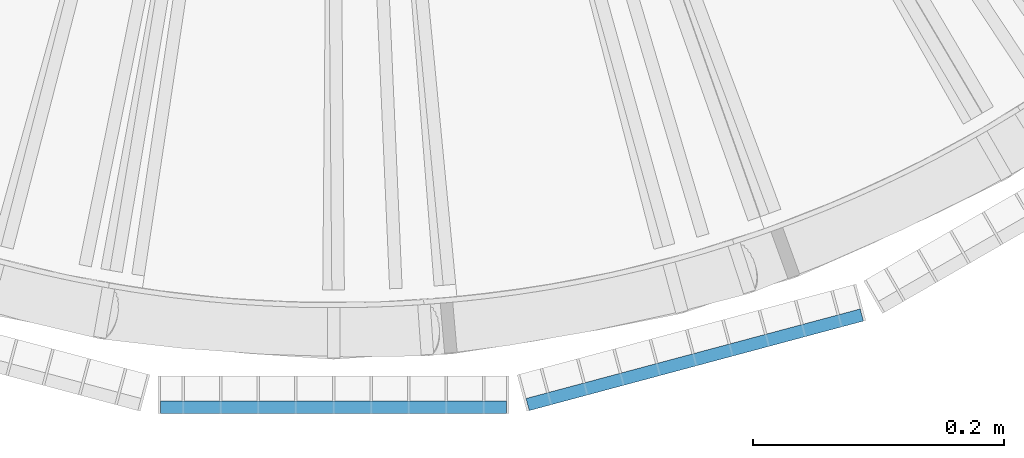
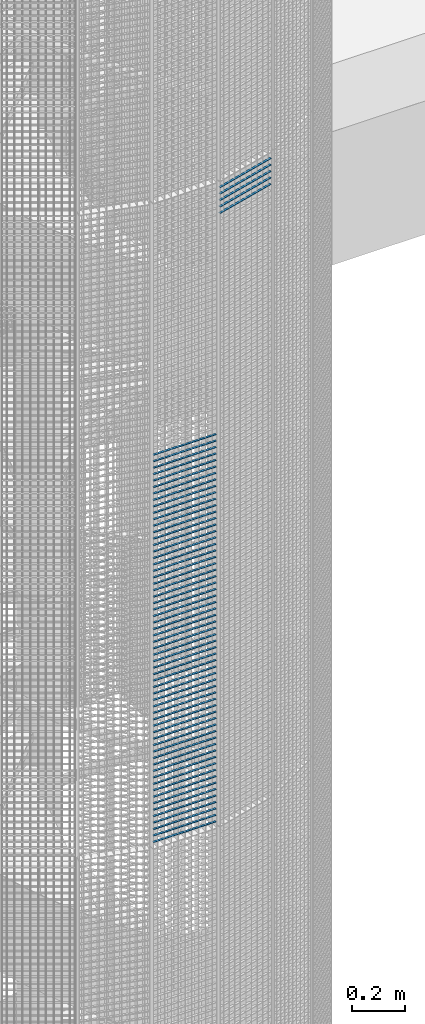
# One storey, part 395 of 1148: 66 beams, 2 elements without a shape of their own.
"""IFC2X3 building model written with IfcOpenShell, lengths in millimetres."""

from ifc_helpers import new_model, si_unit, frame, origin_with_axes, origin_2d_with_axis, place, context, subcontext, project, spatial, rectangle, extrude, material, type_object, element, aggregate, save


model = new_model("IFC2X3")

# Units and contexts
model_context = context("Model", 3, precision=1e-05, world=origin_with_axes())
body_context = subcontext(model_context, "Body", "Model", "MODEL_VIEW")
ifc_project = project(units=[si_unit("LENGTHUNIT", "METRE", prefix="MILLI"), si_unit("AREAUNIT", "SQUARE_METRE"), si_unit("VOLUMEUNIT", "CUBIC_METRE"), si_unit("MASSUNIT", "GRAM", prefix="KILO"), si_unit("TIMEUNIT", "SECOND"), si_unit("PLANEANGLEUNIT", "RADIAN"), si_unit("SOLIDANGLEUNIT", "STERADIAN"), si_unit("THERMODYNAMICTEMPERATUREUNIT", "DEGREE_CELSIUS"), si_unit("LUMINOUSINTENSITYUNIT", "LUMEN")], contexts=[model_context])

# Site, building, storey
site_placement = place(None, origin_with_axes())
site = spatial("IfcSite", under=ifc_project, at=site_placement, Name="Undefined", CompositionType="ELEMENT")
building_placement = place(site_placement, origin_with_axes())
building = spatial("IfcBuilding", under=site, at=building_placement, Name="Undefined", CompositionType="ELEMENT")
storey_placement = place(building_placement, origin_with_axes())
storey = spatial("IfcBuildingStorey", under=building, at=storey_placement, Name="Undefined", CompositionType="ELEMENT", Elevation=0.0)

# Assembly, beams
assembly_1_placement = place(storey_placement, origin_with_axes())
assembly_1 = element("IfcElementAssembly", 1, at=assembly_1_placement, inside=storey, Name="BORDURE", AssemblyPlace="NOTDEFINED", PredefinedType="NOTDEFINED")
ifc_material = material(Name="STEEL/S235JR")
beam_type = type_object("IfcBeamType", Name="PL2*10", PredefinedType="NOTDEFINED")
beam_1_placement = place(assembly_1_placement, frame((21737.9960033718, -1113.47999999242, 7830.0), z_axis=(0.0, -1.0, 0.0), x_axis=(-1.0, 0.0, 0.0)))
beam_1 = element("IfcBeam", 2, at=beam_1_placement, type_object=beam_type, material=ifc_material, Name="ENTRETOISE", context=body_context, shape_type="SweptSolid", body=[
    extrude(rectangle(XDim=2.0, YDim=10.0, at=origin_2d_with_axis()), frame((275.999999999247, 9.09494701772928e-13, 1.53210777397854e-14), z_axis=(-1.0, 0.0, 0.0), x_axis=(0.0, -1.0, 0.0)), (0.0, 0.0, 1.0), 276.0),
])
beam_2_placement = place(assembly_1_placement, frame((21737.9960033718, -1113.47999999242, 7800.0), z_axis=(0.0, -1.0, 0.0), x_axis=(-1.0, 0.0, 0.0)))
beam_2 = element("IfcBeam", 3, at=beam_2_placement, type_object=beam_type, material=ifc_material, Name="ENTRETOISE", context=body_context, shape_type="SweptSolid", body=[
    extrude(rectangle(XDim=2.0, YDim=10.0, at=origin_2d_with_axis()), frame((275.999999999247, 9.09494701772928e-13, 1.53210777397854e-14), z_axis=(-1.0, 0.0, 0.0), x_axis=(0.0, -1.0, 0.0)), (0.0, 0.0, 1.0), 276.0),
])
beam_3_placement = place(assembly_1_placement, frame((21737.9960033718, -1113.47999999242, 7770.0), z_axis=(0.0, -1.0, 0.0), x_axis=(-1.0, 0.0, 0.0)))
beam_3 = element("IfcBeam", 4, at=beam_3_placement, type_object=beam_type, material=ifc_material, Name="ENTRETOISE", context=body_context, shape_type="SweptSolid", body=[
    extrude(rectangle(XDim=2.0, YDim=10.0, at=origin_2d_with_axis()), frame((275.999999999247, 9.09494701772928e-13, 1.53210777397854e-14), z_axis=(-1.0, 0.0, 0.0), x_axis=(0.0, -1.0, 0.0)), (0.0, 0.0, 1.0), 276.0),
])
beam_4_placement = place(assembly_1_placement, frame((21737.9960033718, -1113.47999999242, 7740.0), z_axis=(0.0, -1.0, 0.0), x_axis=(-1.0, 0.0, 0.0)))
beam_4 = element("IfcBeam", 5, at=beam_4_placement, type_object=beam_type, material=ifc_material, Name="ENTRETOISE", context=body_context, shape_type="SweptSolid", body=[
    extrude(rectangle(XDim=2.0, YDim=10.0, at=origin_2d_with_axis()), frame((275.999999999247, 9.09494701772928e-13, 1.53210777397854e-14), z_axis=(-1.0, 0.0, 0.0), x_axis=(0.0, -1.0, 0.0)), (0.0, 0.0, 1.0), 276.0),
])
beam_5_placement = place(assembly_1_placement, frame((21737.9960033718, -1113.47999999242, 7710.0), z_axis=(0.0, -1.0, 0.0), x_axis=(-1.0, 0.0, 0.0)))
beam_5 = element("IfcBeam", 6, at=beam_5_placement, type_object=beam_type, material=ifc_material, Name="ENTRETOISE", context=body_context, shape_type="SweptSolid", body=[
    extrude(rectangle(XDim=2.0, YDim=10.0, at=origin_2d_with_axis()), frame((275.999999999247, 9.09494701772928e-13, 1.53210777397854e-14), z_axis=(-1.0, 0.0, 0.0), x_axis=(0.0, -1.0, 0.0)), (0.0, 0.0, 1.0), 276.0),
])
beam_6_placement = place(assembly_1_placement, frame((21737.9960033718, -1113.47999999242, 7680.0), z_axis=(0.0, -1.0, 0.0), x_axis=(-1.0, 0.0, 0.0)))
beam_6 = element("IfcBeam", 7, at=beam_6_placement, type_object=beam_type, material=ifc_material, Name="ENTRETOISE", context=body_context, shape_type="SweptSolid", body=[
    extrude(rectangle(XDim=2.0, YDim=10.0, at=origin_2d_with_axis()), frame((275.999999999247, 9.09494701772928e-13, 1.53210777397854e-14), z_axis=(-1.0, 0.0, 0.0), x_axis=(0.0, -1.0, 0.0)), (0.0, 0.0, 1.0), 276.0),
])
beam_7_placement = place(assembly_1_placement, frame((21737.9960033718, -1113.47999999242, 7650.0), z_axis=(0.0, -1.0, 0.0), x_axis=(-1.0, 0.0, 0.0)))
beam_7 = element("IfcBeam", 8, at=beam_7_placement, type_object=beam_type, material=ifc_material, Name="ENTRETOISE", context=body_context, shape_type="SweptSolid", body=[
    extrude(rectangle(XDim=2.0, YDim=10.0, at=origin_2d_with_axis()), frame((275.999999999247, 9.09494701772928e-13, 1.53210777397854e-14), z_axis=(-1.0, 0.0, 0.0), x_axis=(0.0, -1.0, 0.0)), (0.0, 0.0, 1.0), 276.0),
])
beam_8_placement = place(assembly_1_placement, frame((21737.9960033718, -1113.47999999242, 7620.0), z_axis=(0.0, -1.0, 0.0), x_axis=(-1.0, 0.0, 0.0)))
beam_8 = element("IfcBeam", 9, at=beam_8_placement, type_object=beam_type, material=ifc_material, Name="ENTRETOISE", context=body_context, shape_type="SweptSolid", body=[
    extrude(rectangle(XDim=2.0, YDim=10.0, at=origin_2d_with_axis()), frame((275.999999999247, 9.09494701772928e-13, 1.53210777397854e-14), z_axis=(-1.0, 0.0, 0.0), x_axis=(0.0, -1.0, 0.0)), (0.0, 0.0, 1.0), 276.0),
])
beam_9_placement = place(assembly_1_placement, frame((21737.9960033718, -1113.47999999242, 7590.0), z_axis=(0.0, -1.0, 0.0), x_axis=(-1.0, 0.0, 0.0)))
beam_9 = element("IfcBeam", 10, at=beam_9_placement, type_object=beam_type, material=ifc_material, Name="ENTRETOISE", context=body_context, shape_type="SweptSolid", body=[
    extrude(rectangle(XDim=2.0, YDim=10.0, at=origin_2d_with_axis()), frame((275.999999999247, 9.09494701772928e-13, 1.53210777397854e-14), z_axis=(-1.0, 0.0, 0.0), x_axis=(0.0, -1.0, 0.0)), (0.0, 0.0, 1.0), 276.0),
])
beam_10_placement = place(assembly_1_placement, frame((21737.9960033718, -1113.47999999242, 7560.0), z_axis=(0.0, -1.0, 0.0), x_axis=(-1.0, 0.0, 0.0)))
beam_10 = element("IfcBeam", 11, at=beam_10_placement, type_object=beam_type, material=ifc_material, Name="ENTRETOISE", context=body_context, shape_type="SweptSolid", body=[
    extrude(rectangle(XDim=2.0, YDim=10.0, at=origin_2d_with_axis()), frame((275.999999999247, 9.09494701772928e-13, 1.53210777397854e-14), z_axis=(-1.0, 0.0, 0.0), x_axis=(0.0, -1.0, 0.0)), (0.0, 0.0, 1.0), 276.0),
])
beam_11_placement = place(assembly_1_placement, frame((21737.9960033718, -1113.47999999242, 7530.0), z_axis=(0.0, -1.0, 0.0), x_axis=(-1.0, 0.0, 0.0)))
beam_11 = element("IfcBeam", 12, at=beam_11_placement, type_object=beam_type, material=ifc_material, Name="ENTRETOISE", context=body_context, shape_type="SweptSolid", body=[
    extrude(rectangle(XDim=2.0, YDim=10.0, at=origin_2d_with_axis()), frame((275.999999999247, 9.09494701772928e-13, 1.53210777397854e-14), z_axis=(-1.0, 0.0, 0.0), x_axis=(0.0, -1.0, 0.0)), (0.0, 0.0, 1.0), 276.0),
])
beam_12_placement = place(assembly_1_placement, frame((21737.9960033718, -1113.47999999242, 7500.0), z_axis=(0.0, -1.0, 0.0), x_axis=(-1.0, 0.0, 0.0)))
beam_12 = element("IfcBeam", 13, at=beam_12_placement, type_object=beam_type, material=ifc_material, Name="ENTRETOISE", context=body_context, shape_type="SweptSolid", body=[
    extrude(rectangle(XDim=2.0, YDim=10.0, at=origin_2d_with_axis()), frame((275.999999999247, 9.09494701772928e-13, 1.53210777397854e-14), z_axis=(-1.0, 0.0, 0.0), x_axis=(0.0, -1.0, 0.0)), (0.0, 0.0, 1.0), 276.0),
])
beam_13_placement = place(assembly_1_placement, frame((21737.9960033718, -1113.47999999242, 7470.0), z_axis=(0.0, -1.0, 0.0), x_axis=(-1.0, 0.0, 0.0)))
beam_13 = element("IfcBeam", 14, at=beam_13_placement, type_object=beam_type, material=ifc_material, Name="ENTRETOISE", context=body_context, shape_type="SweptSolid", body=[
    extrude(rectangle(XDim=2.0, YDim=10.0, at=origin_2d_with_axis()), frame((275.999999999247, 9.09494701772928e-13, 1.53210777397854e-14), z_axis=(-1.0, 0.0, 0.0), x_axis=(0.0, -1.0, 0.0)), (0.0, 0.0, 1.0), 276.0),
])
beam_14_placement = place(assembly_1_placement, frame((21737.9960033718, -1113.47999999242, 7440.0), z_axis=(0.0, -1.0, 0.0), x_axis=(-1.0, 0.0, 0.0)))
beam_14 = element("IfcBeam", 15, at=beam_14_placement, type_object=beam_type, material=ifc_material, Name="ENTRETOISE", context=body_context, shape_type="SweptSolid", body=[
    extrude(rectangle(XDim=2.0, YDim=10.0, at=origin_2d_with_axis()), frame((275.999999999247, 9.09494701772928e-13, 1.53210777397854e-14), z_axis=(-1.0, 0.0, 0.0), x_axis=(0.0, -1.0, 0.0)), (0.0, 0.0, 1.0), 276.0),
])
beam_15_placement = place(assembly_1_placement, frame((21737.9960033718, -1113.47999999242, 7410.0), z_axis=(0.0, -1.0, 0.0), x_axis=(-1.0, 0.0, 0.0)))
beam_15 = element("IfcBeam", 16, at=beam_15_placement, type_object=beam_type, material=ifc_material, Name="ENTRETOISE", context=body_context, shape_type="SweptSolid", body=[
    extrude(rectangle(XDim=2.0, YDim=10.0, at=origin_2d_with_axis()), frame((275.999999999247, 9.09494701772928e-13, 1.53210777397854e-14), z_axis=(-1.0, 0.0, 0.0), x_axis=(0.0, -1.0, 0.0)), (0.0, 0.0, 1.0), 276.0),
])
beam_16_placement = place(assembly_1_placement, frame((21737.9960033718, -1113.47999999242, 7380.0), z_axis=(0.0, -1.0, 0.0), x_axis=(-1.0, 0.0, 0.0)))
beam_16 = element("IfcBeam", 17, at=beam_16_placement, type_object=beam_type, material=ifc_material, Name="ENTRETOISE", context=body_context, shape_type="SweptSolid", body=[
    extrude(rectangle(XDim=2.0, YDim=10.0, at=origin_2d_with_axis()), frame((275.999999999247, 9.09494701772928e-13, 1.53210777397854e-14), z_axis=(-1.0, 0.0, 0.0), x_axis=(0.0, -1.0, 0.0)), (0.0, 0.0, 1.0), 276.0),
])
beam_17_placement = place(assembly_1_placement, frame((21737.9960033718, -1113.47999999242, 7350.0), z_axis=(0.0, -1.0, 0.0), x_axis=(-1.0, 0.0, 0.0)))
beam_17 = element("IfcBeam", 18, at=beam_17_placement, type_object=beam_type, material=ifc_material, Name="ENTRETOISE", context=body_context, shape_type="SweptSolid", body=[
    extrude(rectangle(XDim=2.0, YDim=10.0, at=origin_2d_with_axis()), frame((275.999999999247, 9.09494701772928e-13, 1.53210777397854e-14), z_axis=(-1.0, 0.0, 0.0), x_axis=(0.0, -1.0, 0.0)), (0.0, 0.0, 1.0), 276.0),
])
beam_18_placement = place(assembly_1_placement, frame((21737.9960033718, -1113.47999999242, 7320.0), z_axis=(0.0, -1.0, 0.0), x_axis=(-1.0, 0.0, 0.0)))
beam_18 = element("IfcBeam", 19, at=beam_18_placement, type_object=beam_type, material=ifc_material, Name="ENTRETOISE", context=body_context, shape_type="SweptSolid", body=[
    extrude(rectangle(XDim=2.0, YDim=10.0, at=origin_2d_with_axis()), frame((275.999999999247, 9.09494701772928e-13, 1.53210777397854e-14), z_axis=(-1.0, 0.0, 0.0), x_axis=(0.0, -1.0, 0.0)), (0.0, 0.0, 1.0), 276.0),
])
beam_19_placement = place(assembly_1_placement, frame((21737.9960033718, -1113.47999999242, 7290.0), z_axis=(0.0, -1.0, 0.0), x_axis=(-1.0, 0.0, 0.0)))
beam_19 = element("IfcBeam", 20, at=beam_19_placement, type_object=beam_type, material=ifc_material, Name="ENTRETOISE", context=body_context, shape_type="SweptSolid", body=[
    extrude(rectangle(XDim=2.0, YDim=10.0, at=origin_2d_with_axis()), frame((275.999999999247, 9.09494701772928e-13, 1.53210777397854e-14), z_axis=(-1.0, 0.0, 0.0), x_axis=(0.0, -1.0, 0.0)), (0.0, 0.0, 1.0), 276.0),
])
beam_20_placement = place(assembly_1_placement, frame((21737.9960033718, -1113.47999999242, 7260.0), z_axis=(0.0, -1.0, 0.0), x_axis=(-1.0, 0.0, 0.0)))
beam_20 = element("IfcBeam", 21, at=beam_20_placement, type_object=beam_type, material=ifc_material, Name="ENTRETOISE", context=body_context, shape_type="SweptSolid", body=[
    extrude(rectangle(XDim=2.0, YDim=10.0, at=origin_2d_with_axis()), frame((275.999999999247, 9.09494701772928e-13, 1.53210777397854e-14), z_axis=(-1.0, 0.0, 0.0), x_axis=(0.0, -1.0, 0.0)), (0.0, 0.0, 1.0), 276.0),
])
beam_21_placement = place(assembly_1_placement, frame((21737.9960033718, -1113.47999999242, 7230.0), z_axis=(0.0, -1.0, 0.0), x_axis=(-1.0, 0.0, 0.0)))
beam_21 = element("IfcBeam", 22, at=beam_21_placement, type_object=beam_type, material=ifc_material, Name="ENTRETOISE", context=body_context, shape_type="SweptSolid", body=[
    extrude(rectangle(XDim=2.0, YDim=10.0, at=origin_2d_with_axis()), frame((275.999999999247, 9.09494701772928e-13, 1.53210777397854e-14), z_axis=(-1.0, 0.0, 0.0), x_axis=(0.0, -1.0, 0.0)), (0.0, 0.0, 1.0), 276.0),
])
beam_22_placement = place(assembly_1_placement, frame((21737.9960033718, -1113.47999999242, 7200.0), z_axis=(0.0, -1.0, 0.0), x_axis=(-1.0, 0.0, 0.0)))
beam_22 = element("IfcBeam", 23, at=beam_22_placement, type_object=beam_type, material=ifc_material, Name="ENTRETOISE", context=body_context, shape_type="SweptSolid", body=[
    extrude(rectangle(XDim=2.0, YDim=10.0, at=origin_2d_with_axis()), frame((275.999999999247, 9.09494701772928e-13, 1.53210777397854e-14), z_axis=(-1.0, 0.0, 0.0), x_axis=(0.0, -1.0, 0.0)), (0.0, 0.0, 1.0), 276.0),
])
beam_23_placement = place(assembly_1_placement, frame((21737.9960033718, -1113.47999999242, 7170.0), z_axis=(0.0, -1.0, 0.0), x_axis=(-1.0, 0.0, 0.0)))
beam_23 = element("IfcBeam", 24, at=beam_23_placement, type_object=beam_type, material=ifc_material, Name="ENTRETOISE", context=body_context, shape_type="SweptSolid", body=[
    extrude(rectangle(XDim=2.0, YDim=10.0, at=origin_2d_with_axis()), frame((275.999999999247, 9.09494701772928e-13, 1.53210777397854e-14), z_axis=(-1.0, 0.0, 0.0), x_axis=(0.0, -1.0, 0.0)), (0.0, 0.0, 1.0), 276.0),
])
beam_24_placement = place(assembly_1_placement, frame((21737.9960033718, -1113.47999999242, 7140.0), z_axis=(0.0, -1.0, 0.0), x_axis=(-1.0, 0.0, 0.0)))
beam_24 = element("IfcBeam", 25, at=beam_24_placement, type_object=beam_type, material=ifc_material, Name="ENTRETOISE", context=body_context, shape_type="SweptSolid", body=[
    extrude(rectangle(XDim=2.0, YDim=10.0, at=origin_2d_with_axis()), frame((275.999999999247, 9.09494701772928e-13, 1.53210777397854e-14), z_axis=(-1.0, 0.0, 0.0), x_axis=(0.0, -1.0, 0.0)), (0.0, 0.0, 1.0), 276.0),
])
beam_25_placement = place(assembly_1_placement, frame((21737.9960033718, -1113.47999999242, 6720.0), z_axis=(0.0, -1.0, 0.0), x_axis=(-1.0, 0.0, 0.0)))
beam_25 = element("IfcBeam", 26, at=beam_25_placement, type_object=beam_type, material=ifc_material, Name="ENTRETOISE", context=body_context, shape_type="SweptSolid", body=[
    extrude(rectangle(XDim=2.0, YDim=10.0, at=origin_2d_with_axis()), frame((275.999999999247, 9.09494701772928e-13, 1.53210777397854e-14), z_axis=(-1.0, 0.0, 0.0), x_axis=(0.0, -1.0, 0.0)), (0.0, 0.0, 1.0), 276.0),
])
beam_26_placement = place(assembly_1_placement, frame((21737.9960033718, -1113.47999999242, 6690.0), z_axis=(0.0, -1.0, 0.0), x_axis=(-1.0, 0.0, 0.0)))
beam_26 = element("IfcBeam", 27, at=beam_26_placement, type_object=beam_type, material=ifc_material, Name="ENTRETOISE", context=body_context, shape_type="SweptSolid", body=[
    extrude(rectangle(XDim=2.0, YDim=10.0, at=origin_2d_with_axis()), frame((275.999999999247, 9.09494701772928e-13, 1.53210777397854e-14), z_axis=(-1.0, 0.0, 0.0), x_axis=(0.0, -1.0, 0.0)), (0.0, 0.0, 1.0), 276.0),
])
beam_27_placement = place(assembly_1_placement, frame((21737.9960033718, -1113.47999999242, 6750.0), z_axis=(0.0, -1.0, 0.0), x_axis=(-1.0, 0.0, 0.0)))
beam_27 = element("IfcBeam", 28, at=beam_27_placement, type_object=beam_type, material=ifc_material, Name="ENTRETOISE", context=body_context, shape_type="SweptSolid", body=[
    extrude(rectangle(XDim=2.0, YDim=10.0, at=origin_2d_with_axis()), frame((275.999999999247, 9.09494701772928e-13, 1.53210777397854e-14), z_axis=(-1.0, 0.0, 0.0), x_axis=(0.0, -1.0, 0.0)), (0.0, 0.0, 1.0), 276.0),
])
beam_28_placement = place(assembly_1_placement, frame((21737.9960033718, -1113.47999999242, 6660.0), z_axis=(0.0, -1.0, 0.0), x_axis=(-1.0, 0.0, 0.0)))
beam_28 = element("IfcBeam", 29, at=beam_28_placement, type_object=beam_type, material=ifc_material, Name="ENTRETOISE", context=body_context, shape_type="SweptSolid", body=[
    extrude(rectangle(XDim=2.0, YDim=10.0, at=origin_2d_with_axis()), frame((275.999999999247, 9.09494701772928e-13, 1.53210777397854e-14), z_axis=(-1.0, 0.0, 0.0), x_axis=(0.0, -1.0, 0.0)), (0.0, 0.0, 1.0), 276.0),
])
beam_29_placement = place(assembly_1_placement, frame((21737.9960033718, -1113.47999999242, 6630.0), z_axis=(0.0, -1.0, 0.0), x_axis=(-1.0, 0.0, 0.0)))
beam_29 = element("IfcBeam", 30, at=beam_29_placement, type_object=beam_type, material=ifc_material, Name="ENTRETOISE", context=body_context, shape_type="SweptSolid", body=[
    extrude(rectangle(XDim=2.0, YDim=10.0, at=origin_2d_with_axis()), frame((275.999999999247, 9.09494701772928e-13, 1.53210777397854e-14), z_axis=(-1.0, 0.0, 0.0), x_axis=(0.0, -1.0, 0.0)), (0.0, 0.0, 1.0), 276.0),
])
beam_30_placement = place(assembly_1_placement, frame((21737.9960033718, -1113.47999999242, 6780.0), z_axis=(0.0, -1.0, 0.0), x_axis=(-1.0, 0.0, 0.0)))
beam_30 = element("IfcBeam", 31, at=beam_30_placement, type_object=beam_type, material=ifc_material, Name="ENTRETOISE", context=body_context, shape_type="SweptSolid", body=[
    extrude(rectangle(XDim=2.0, YDim=10.0, at=origin_2d_with_axis()), frame((275.999999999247, 9.09494701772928e-13, 1.53210777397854e-14), z_axis=(-1.0, 0.0, 0.0), x_axis=(0.0, -1.0, 0.0)), (0.0, 0.0, 1.0), 276.0),
])
beam_31_placement = place(assembly_1_placement, frame((21737.9960033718, -1113.47999999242, 6600.0), z_axis=(0.0, -1.0, 0.0), x_axis=(-1.0, 0.0, 0.0)))
beam_31 = element("IfcBeam", 32, at=beam_31_placement, type_object=beam_type, material=ifc_material, Name="ENTRETOISE", context=body_context, shape_type="SweptSolid", body=[
    extrude(rectangle(XDim=2.0, YDim=10.0, at=origin_2d_with_axis()), frame((275.999999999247, 9.09494701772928e-13, 1.53210777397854e-14), z_axis=(-1.0, 0.0, 0.0), x_axis=(0.0, -1.0, 0.0)), (0.0, 0.0, 1.0), 276.0),
])
beam_32_placement = place(assembly_1_placement, frame((21737.9960033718, -1113.47999999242, 6810.0), z_axis=(0.0, -1.0, 0.0), x_axis=(-1.0, 0.0, 0.0)))
beam_32 = element("IfcBeam", 33, at=beam_32_placement, type_object=beam_type, material=ifc_material, Name="ENTRETOISE", context=body_context, shape_type="SweptSolid", body=[
    extrude(rectangle(XDim=2.0, YDim=10.0, at=origin_2d_with_axis()), frame((275.999999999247, 9.09494701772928e-13, 1.53210777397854e-14), z_axis=(-1.0, 0.0, 0.0), x_axis=(0.0, -1.0, 0.0)), (0.0, 0.0, 1.0), 276.0),
])
beam_33_placement = place(assembly_1_placement, frame((21737.9960033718, -1113.47999999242, 6570.0), z_axis=(0.0, -1.0, 0.0), x_axis=(-1.0, 0.0, 0.0)))
beam_33 = element("IfcBeam", 34, at=beam_33_placement, type_object=beam_type, material=ifc_material, Name="ENTRETOISE", context=body_context, shape_type="SweptSolid", body=[
    extrude(rectangle(XDim=2.0, YDim=10.0, at=origin_2d_with_axis()), frame((275.999999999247, 9.09494701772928e-13, 1.53210777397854e-14), z_axis=(-1.0, 0.0, 0.0), x_axis=(0.0, -1.0, 0.0)), (0.0, 0.0, 1.0), 276.0),
])
beam_34_placement = place(assembly_1_placement, frame((21737.9960033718, -1113.47999999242, 6540.0), z_axis=(0.0, -1.0, 0.0), x_axis=(-1.0, 0.0, 0.0)))
beam_34 = element("IfcBeam", 35, at=beam_34_placement, type_object=beam_type, material=ifc_material, Name="ENTRETOISE", context=body_context, shape_type="SweptSolid", body=[
    extrude(rectangle(XDim=2.0, YDim=10.0, at=origin_2d_with_axis()), frame((275.999999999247, 9.09494701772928e-13, 1.53210777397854e-14), z_axis=(-1.0, 0.0, 0.0), x_axis=(0.0, -1.0, 0.0)), (0.0, 0.0, 1.0), 276.0),
])
beam_35_placement = place(assembly_1_placement, frame((21737.9960033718, -1113.47999999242, 6840.0), z_axis=(0.0, -1.0, 0.0), x_axis=(-1.0, 0.0, 0.0)))
beam_35 = element("IfcBeam", 36, at=beam_35_placement, type_object=beam_type, material=ifc_material, Name="ENTRETOISE", context=body_context, shape_type="SweptSolid", body=[
    extrude(rectangle(XDim=2.0, YDim=10.0, at=origin_2d_with_axis()), frame((275.999999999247, 9.09494701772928e-13, 1.53210777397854e-14), z_axis=(-1.0, 0.0, 0.0), x_axis=(0.0, -1.0, 0.0)), (0.0, 0.0, 1.0), 276.0),
])
beam_36_placement = place(assembly_1_placement, frame((21737.9960033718, -1113.47999999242, 6510.0), z_axis=(0.0, -1.0, 0.0), x_axis=(-1.0, 0.0, 0.0)))
beam_36 = element("IfcBeam", 37, at=beam_36_placement, type_object=beam_type, material=ifc_material, Name="ENTRETOISE", context=body_context, shape_type="SweptSolid", body=[
    extrude(rectangle(XDim=2.0, YDim=10.0, at=origin_2d_with_axis()), frame((275.999999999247, 9.09494701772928e-13, 1.53210777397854e-14), z_axis=(-1.0, 0.0, 0.0), x_axis=(0.0, -1.0, 0.0)), (0.0, 0.0, 1.0), 276.0),
])
beam_37_placement = place(assembly_1_placement, frame((21737.9960033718, -1113.47999999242, 6480.0), z_axis=(0.0, -1.0, 0.0), x_axis=(-1.0, 0.0, 0.0)))
beam_37 = element("IfcBeam", 38, at=beam_37_placement, type_object=beam_type, material=ifc_material, Name="ENTRETOISE", context=body_context, shape_type="SweptSolid", body=[
    extrude(rectangle(XDim=2.0, YDim=10.0, at=origin_2d_with_axis()), frame((275.999999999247, 9.09494701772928e-13, 1.53210777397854e-14), z_axis=(-1.0, 0.0, 0.0), x_axis=(0.0, -1.0, 0.0)), (0.0, 0.0, 1.0), 276.0),
])
beam_38_placement = place(assembly_1_placement, frame((21737.9960033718, -1113.47999999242, 6870.0), z_axis=(0.0, -1.0, 0.0), x_axis=(-1.0, 0.0, 0.0)))
beam_38 = element("IfcBeam", 39, at=beam_38_placement, type_object=beam_type, material=ifc_material, Name="ENTRETOISE", context=body_context, shape_type="SweptSolid", body=[
    extrude(rectangle(XDim=2.0, YDim=10.0, at=origin_2d_with_axis()), frame((275.999999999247, 9.09494701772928e-13, 1.53210777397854e-14), z_axis=(-1.0, 0.0, 0.0), x_axis=(0.0, -1.0, 0.0)), (0.0, 0.0, 1.0), 276.0),
])
beam_39_placement = place(assembly_1_placement, frame((21737.9960033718, -1113.47999999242, 6450.0), z_axis=(0.0, -1.0, 0.0), x_axis=(-1.0, 0.0, 0.0)))
beam_39 = element("IfcBeam", 40, at=beam_39_placement, type_object=beam_type, material=ifc_material, Name="ENTRETOISE", context=body_context, shape_type="SweptSolid", body=[
    extrude(rectangle(XDim=2.0, YDim=10.0, at=origin_2d_with_axis()), frame((275.999999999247, 9.09494701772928e-13, 1.53210777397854e-14), z_axis=(-1.0, 0.0, 0.0), x_axis=(0.0, -1.0, 0.0)), (0.0, 0.0, 1.0), 276.0),
])
beam_40_placement = place(assembly_1_placement, frame((21737.9960033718, -1113.47999999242, 6420.0), z_axis=(0.0, -1.0, 0.0), x_axis=(-1.0, 0.0, 0.0)))
beam_40 = element("IfcBeam", 41, at=beam_40_placement, type_object=beam_type, material=ifc_material, Name="ENTRETOISE", context=body_context, shape_type="SweptSolid", body=[
    extrude(rectangle(XDim=2.0, YDim=10.0, at=origin_2d_with_axis()), frame((275.999999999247, 9.09494701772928e-13, 1.53210777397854e-14), z_axis=(-1.0, 0.0, 0.0), x_axis=(0.0, -1.0, 0.0)), (0.0, 0.0, 1.0), 276.0),
])
beam_41_placement = place(assembly_1_placement, frame((21737.9960033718, -1113.47999999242, 6900.0), z_axis=(0.0, -1.0, 0.0), x_axis=(-1.0, 0.0, 0.0)))
beam_41 = element("IfcBeam", 42, at=beam_41_placement, type_object=beam_type, material=ifc_material, Name="ENTRETOISE", context=body_context, shape_type="SweptSolid", body=[
    extrude(rectangle(XDim=2.0, YDim=10.0, at=origin_2d_with_axis()), frame((275.999999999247, 9.09494701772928e-13, 1.53210777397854e-14), z_axis=(-1.0, 0.0, 0.0), x_axis=(0.0, -1.0, 0.0)), (0.0, 0.0, 1.0), 276.0),
])
beam_42_placement = place(assembly_1_placement, frame((21737.9960033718, -1113.47999999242, 6390.0), z_axis=(0.0, -1.0, 0.0), x_axis=(-1.0, 0.0, 0.0)))
beam_42 = element("IfcBeam", 43, at=beam_42_placement, type_object=beam_type, material=ifc_material, Name="ENTRETOISE", context=body_context, shape_type="SweptSolid", body=[
    extrude(rectangle(XDim=2.0, YDim=10.0, at=origin_2d_with_axis()), frame((275.999999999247, 9.09494701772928e-13, 1.53210777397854e-14), z_axis=(-1.0, 0.0, 0.0), x_axis=(0.0, -1.0, 0.0)), (0.0, 0.0, 1.0), 276.0),
])
beam_43_placement = place(assembly_1_placement, frame((21737.9960033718, -1113.47999999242, 6930.0), z_axis=(0.0, -1.0, 0.0), x_axis=(-1.0, 0.0, 0.0)))
beam_43 = element("IfcBeam", 44, at=beam_43_placement, type_object=beam_type, material=ifc_material, Name="ENTRETOISE", context=body_context, shape_type="SweptSolid", body=[
    extrude(rectangle(XDim=2.0, YDim=10.0, at=origin_2d_with_axis()), frame((275.999999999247, 9.09494701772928e-13, 1.53210777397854e-14), z_axis=(-1.0, 0.0, 0.0), x_axis=(0.0, -1.0, 0.0)), (0.0, 0.0, 1.0), 276.0),
])
beam_44_placement = place(assembly_1_placement, frame((21737.9960033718, -1113.47999999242, 6360.0), z_axis=(0.0, -1.0, 0.0), x_axis=(-1.0, 0.0, 0.0)))
beam_44 = element("IfcBeam", 45, at=beam_44_placement, type_object=beam_type, material=ifc_material, Name="ENTRETOISE", context=body_context, shape_type="SweptSolid", body=[
    extrude(rectangle(XDim=2.0, YDim=10.0, at=origin_2d_with_axis()), frame((275.999999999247, 9.09494701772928e-13, 1.53210777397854e-14), z_axis=(-1.0, 0.0, 0.0), x_axis=(0.0, -1.0, 0.0)), (0.0, 0.0, 1.0), 276.0),
])
beam_45_placement = place(assembly_1_placement, frame((21737.9960033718, -1113.47999999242, 6330.0), z_axis=(0.0, -1.0, 0.0), x_axis=(-1.0, 0.0, 0.0)))
beam_45 = element("IfcBeam", 46, at=beam_45_placement, type_object=beam_type, material=ifc_material, Name="ENTRETOISE", context=body_context, shape_type="SweptSolid", body=[
    extrude(rectangle(XDim=2.0, YDim=10.0, at=origin_2d_with_axis()), frame((275.999999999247, 9.09494701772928e-13, 1.53210777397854e-14), z_axis=(-1.0, 0.0, 0.0), x_axis=(0.0, -1.0, 0.0)), (0.0, 0.0, 1.0), 276.0),
])
beam_46_placement = place(assembly_1_placement, frame((21737.9960033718, -1113.47999999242, 6960.0), z_axis=(0.0, -1.0, 0.0), x_axis=(-1.0, 0.0, 0.0)))
beam_46 = element("IfcBeam", 47, at=beam_46_placement, type_object=beam_type, material=ifc_material, Name="ENTRETOISE", context=body_context, shape_type="SweptSolid", body=[
    extrude(rectangle(XDim=2.0, YDim=10.0, at=origin_2d_with_axis()), frame((275.999999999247, 9.09494701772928e-13, 1.53210777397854e-14), z_axis=(-1.0, 0.0, 0.0), x_axis=(0.0, -1.0, 0.0)), (0.0, 0.0, 1.0), 276.0),
])
beam_47_placement = place(assembly_1_placement, frame((21737.9960033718, -1113.47999999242, 6300.0), z_axis=(0.0, -1.0, 0.0), x_axis=(-1.0, 0.0, 0.0)))
beam_47 = element("IfcBeam", 48, at=beam_47_placement, type_object=beam_type, material=ifc_material, Name="ENTRETOISE", context=body_context, shape_type="SweptSolid", body=[
    extrude(rectangle(XDim=2.0, YDim=10.0, at=origin_2d_with_axis()), frame((275.999999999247, 9.09494701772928e-13, 1.53210777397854e-14), z_axis=(-1.0, 0.0, 0.0), x_axis=(0.0, -1.0, 0.0)), (0.0, 0.0, 1.0), 276.0),
])
beam_48_placement = place(assembly_1_placement, frame((21737.9960033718, -1113.47999999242, 6270.0), z_axis=(0.0, -1.0, 0.0), x_axis=(-1.0, 0.0, 0.0)))
beam_48 = element("IfcBeam", 49, at=beam_48_placement, type_object=beam_type, material=ifc_material, Name="ENTRETOISE", context=body_context, shape_type="SweptSolid", body=[
    extrude(rectangle(XDim=2.0, YDim=10.0, at=origin_2d_with_axis()), frame((275.999999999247, 9.09494701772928e-13, 1.53210777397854e-14), z_axis=(-1.0, 0.0, 0.0), x_axis=(0.0, -1.0, 0.0)), (0.0, 0.0, 1.0), 276.0),
])
beam_49_placement = place(assembly_1_placement, frame((21737.9960033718, -1113.47999999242, 6990.0), z_axis=(0.0, -1.0, 0.0), x_axis=(-1.0, 0.0, 0.0)))
beam_49 = element("IfcBeam", 50, at=beam_49_placement, type_object=beam_type, material=ifc_material, Name="ENTRETOISE", context=body_context, shape_type="SweptSolid", body=[
    extrude(rectangle(XDim=2.0, YDim=10.0, at=origin_2d_with_axis()), frame((275.999999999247, 9.09494701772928e-13, 1.53210777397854e-14), z_axis=(-1.0, 0.0, 0.0), x_axis=(0.0, -1.0, 0.0)), (0.0, 0.0, 1.0), 276.0),
])
beam_50_placement = place(assembly_1_placement, frame((21737.9960033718, -1113.47999999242, 6240.0), z_axis=(0.0, -1.0, 0.0), x_axis=(-1.0, 0.0, 0.0)))
beam_50 = element("IfcBeam", 51, at=beam_50_placement, type_object=beam_type, material=ifc_material, Name="ENTRETOISE", context=body_context, shape_type="SweptSolid", body=[
    extrude(rectangle(XDim=2.0, YDim=10.0, at=origin_2d_with_axis()), frame((275.999999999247, 9.09494701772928e-13, 1.53210777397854e-14), z_axis=(-1.0, 0.0, 0.0), x_axis=(0.0, -1.0, 0.0)), (0.0, 0.0, 1.0), 276.0),
])
beam_51_placement = place(assembly_1_placement, frame((21737.9960033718, -1113.47999999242, 7020.0), z_axis=(0.0, -1.0, 0.0), x_axis=(-1.0, 0.0, 0.0)))
beam_51 = element("IfcBeam", 52, at=beam_51_placement, type_object=beam_type, material=ifc_material, Name="ENTRETOISE", context=body_context, shape_type="SweptSolid", body=[
    extrude(rectangle(XDim=2.0, YDim=10.0, at=origin_2d_with_axis()), frame((275.999999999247, 9.09494701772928e-13, 1.53210777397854e-14), z_axis=(-1.0, 0.0, 0.0), x_axis=(0.0, -1.0, 0.0)), (0.0, 0.0, 1.0), 276.0),
])
beam_52_placement = place(assembly_1_placement, frame((21737.9960033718, -1113.47999999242, 6210.0), z_axis=(0.0, -1.0, 0.0), x_axis=(-1.0, 0.0, 0.0)))
beam_52 = element("IfcBeam", 53, at=beam_52_placement, type_object=beam_type, material=ifc_material, Name="ENTRETOISE", context=body_context, shape_type="SweptSolid", body=[
    extrude(rectangle(XDim=2.0, YDim=10.0, at=origin_2d_with_axis()), frame((275.999999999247, 9.09494701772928e-13, 1.53210777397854e-14), z_axis=(-1.0, 0.0, 0.0), x_axis=(0.0, -1.0, 0.0)), (0.0, 0.0, 1.0), 276.0),
])
beam_53_placement = place(assembly_1_placement, frame((21737.9960033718, -1113.47999999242, 6180.0), z_axis=(0.0, -1.0, 0.0), x_axis=(-1.0, 0.0, 0.0)))
beam_53 = element("IfcBeam", 54, at=beam_53_placement, type_object=beam_type, material=ifc_material, Name="ENTRETOISE", context=body_context, shape_type="SweptSolid", body=[
    extrude(rectangle(XDim=2.0, YDim=10.0, at=origin_2d_with_axis()), frame((275.999999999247, 9.09494701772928e-13, 1.53210777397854e-14), z_axis=(-1.0, 0.0, 0.0), x_axis=(0.0, -1.0, 0.0)), (0.0, 0.0, 1.0), 276.0),
])
beam_54_placement = place(assembly_1_placement, frame((21737.9960033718, -1113.47999999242, 7050.0), z_axis=(0.0, -1.0, 0.0), x_axis=(-1.0, 0.0, 0.0)))
beam_54 = element("IfcBeam", 55, at=beam_54_placement, type_object=beam_type, material=ifc_material, Name="ENTRETOISE", context=body_context, shape_type="SweptSolid", body=[
    extrude(rectangle(XDim=2.0, YDim=10.0, at=origin_2d_with_axis()), frame((275.999999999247, 9.09494701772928e-13, 1.53210777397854e-14), z_axis=(-1.0, 0.0, 0.0), x_axis=(0.0, -1.0, 0.0)), (0.0, 0.0, 1.0), 276.0),
])
beam_55_placement = place(assembly_1_placement, frame((21737.9960033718, -1113.47999999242, 6150.0), z_axis=(0.0, -1.0, 0.0), x_axis=(-1.0, 0.0, 0.0)))
beam_55 = element("IfcBeam", 56, at=beam_55_placement, type_object=beam_type, material=ifc_material, Name="ENTRETOISE", context=body_context, shape_type="SweptSolid", body=[
    extrude(rectangle(XDim=2.0, YDim=10.0, at=origin_2d_with_axis()), frame((275.999999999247, 9.09494701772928e-13, 1.53210777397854e-14), z_axis=(-1.0, 0.0, 0.0), x_axis=(0.0, -1.0, 0.0)), (0.0, 0.0, 1.0), 276.0),
])
beam_56_placement = place(assembly_1_placement, frame((21737.9960033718, -1113.47999999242, 6120.0), z_axis=(0.0, -1.0, 0.0), x_axis=(-1.0, 0.0, 0.0)))
beam_56 = element("IfcBeam", 57, at=beam_56_placement, type_object=beam_type, material=ifc_material, Name="ENTRETOISE", context=body_context, shape_type="SweptSolid", body=[
    extrude(rectangle(XDim=2.0, YDim=10.0, at=origin_2d_with_axis()), frame((275.999999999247, 9.09494701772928e-13, 1.53210777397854e-14), z_axis=(-1.0, 0.0, 0.0), x_axis=(0.0, -1.0, 0.0)), (0.0, 0.0, 1.0), 276.0),
])
beam_57_placement = place(assembly_1_placement, frame((21737.9960033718, -1113.47999999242, 7080.0), z_axis=(0.0, -1.0, 0.0), x_axis=(-1.0, 0.0, 0.0)))
beam_57 = element("IfcBeam", 58, at=beam_57_placement, type_object=beam_type, material=ifc_material, Name="ENTRETOISE", context=body_context, shape_type="SweptSolid", body=[
    extrude(rectangle(XDim=2.0, YDim=10.0, at=origin_2d_with_axis()), frame((275.999999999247, 9.09494701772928e-13, 1.53210777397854e-14), z_axis=(-1.0, 0.0, 0.0), x_axis=(0.0, -1.0, 0.0)), (0.0, 0.0, 1.0), 276.0),
])
beam_58_placement = place(assembly_1_placement, frame((21737.9960033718, -1113.47999999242, 6090.0), z_axis=(0.0, -1.0, 0.0), x_axis=(-1.0, 0.0, 0.0)))
beam_58 = element("IfcBeam", 59, at=beam_58_placement, type_object=beam_type, material=ifc_material, Name="ENTRETOISE", context=body_context, shape_type="SweptSolid", body=[
    extrude(rectangle(XDim=2.0, YDim=10.0, at=origin_2d_with_axis()), frame((275.999999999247, 9.09494701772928e-13, 1.53210777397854e-14), z_axis=(-1.0, 0.0, 0.0), x_axis=(0.0, -1.0, 0.0)), (0.0, 0.0, 1.0), 276.0),
])
beam_59_placement = place(assembly_1_placement, frame((21737.9960033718, -1113.47999999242, 6060.0), z_axis=(0.0, -1.0, 0.0), x_axis=(-1.0, 0.0, 0.0)))
beam_59 = element("IfcBeam", 60, at=beam_59_placement, type_object=beam_type, material=ifc_material, Name="ENTRETOISE", context=body_context, shape_type="SweptSolid", body=[
    extrude(rectangle(XDim=2.0, YDim=10.0, at=origin_2d_with_axis()), frame((275.999999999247, 9.09494701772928e-13, 1.53210777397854e-14), z_axis=(-1.0, 0.0, 0.0), x_axis=(0.0, -1.0, 0.0)), (0.0, 0.0, 1.0), 276.0),
])
beam_60_placement = place(assembly_1_placement, frame((21737.9960033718, -1113.47999999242, 7110.0), z_axis=(0.0, -1.0, 0.0), x_axis=(-1.0, 0.0, 0.0)))
beam_60 = element("IfcBeam", 61, at=beam_60_placement, type_object=beam_type, material=ifc_material, Name="ENTRETOISE", context=body_context, shape_type="SweptSolid", body=[
    extrude(rectangle(XDim=2.0, YDim=10.0, at=origin_2d_with_axis()), frame((275.999999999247, 9.09494701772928e-13, 1.53210777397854e-14), z_axis=(-1.0, 0.0, 0.0), x_axis=(0.0, -1.0, 0.0)), (0.0, 0.0, 1.0), 276.0),
])
beam_61_placement = place(assembly_1_placement, frame((21737.9960033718, -1113.47999999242, 6030.0), z_axis=(0.0, -1.0, 0.0), x_axis=(-1.0, 0.0, 0.0)))
beam_61 = element("IfcBeam", 62, at=beam_61_placement, type_object=beam_type, material=ifc_material, Name="ENTRETOISE", context=body_context, shape_type="SweptSolid", body=[
    extrude(rectangle(XDim=2.0, YDim=10.0, at=origin_2d_with_axis()), frame((275.999999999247, 9.09494701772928e-13, 1.53210777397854e-14), z_axis=(-1.0, 0.0, 0.0), x_axis=(0.0, -1.0, 0.0)), (0.0, 0.0, 1.0), 276.0),
])
aggregate(assembly_1, [beam_1, beam_2, beam_3, beam_4, beam_5, beam_6, beam_7, beam_8, beam_9, beam_10, beam_11, beam_12, beam_13, beam_14, beam_15, beam_16, beam_17, beam_18, beam_19, beam_20, beam_21, beam_22, beam_23, beam_24, beam_25, beam_26, beam_27, beam_28, beam_29, beam_30, beam_31, beam_32, beam_33, beam_34, beam_35, beam_36, beam_37, beam_38, beam_39, beam_40, beam_41, beam_42, beam_43, beam_44, beam_45, beam_46, beam_47, beam_48, beam_49, beam_50, beam_51, beam_52, beam_53, beam_54, beam_55, beam_56, beam_57, beam_58, beam_59, beam_60, beam_61])

assembly_2_placement = place(storey_placement, origin_with_axes())
assembly_2 = element("IfcElementAssembly", 63, at=assembly_2_placement, inside=storey, Name="BORDURE", AssemblyPlace="NOTDEFINED", PredefinedType="NOTDEFINED")
beam_62_placement = place(assembly_2_placement, frame((22021.4837339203, -1039.82309522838, 8970.0), z_axis=(0.258819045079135, -0.965925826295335, 0.0), x_axis=(-0.965925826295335, -0.258819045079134, 0.0)))
beam_62 = element("IfcBeam", 64, at=beam_62_placement, type_object=beam_type, material=ifc_material, Name="ENTRETOISE", context=body_context, shape_type="SweptSolid", body=[
    extrude(rectangle(XDim=2.0, YDim=10.0, at=origin_2d_with_axis()), frame((275.999999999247, 9.09494701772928e-13, 1.53210777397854e-14), z_axis=(-1.0, 0.0, 0.0), x_axis=(0.0, -1.0, 0.0)), (0.0, 0.0, 1.0), 276.0),
])
beam_63_placement = place(assembly_2_placement, frame((22021.4837339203, -1039.82309522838, 8940.0), z_axis=(0.258819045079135, -0.965925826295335, 0.0), x_axis=(-0.965925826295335, -0.258819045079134, 0.0)))
beam_63 = element("IfcBeam", 65, at=beam_63_placement, type_object=beam_type, material=ifc_material, Name="ENTRETOISE", context=body_context, shape_type="SweptSolid", body=[
    extrude(rectangle(XDim=2.0, YDim=10.0, at=origin_2d_with_axis()), frame((275.999999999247, 9.09494701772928e-13, 1.53210777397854e-14), z_axis=(-1.0, 0.0, 0.0), x_axis=(0.0, -1.0, 0.0)), (0.0, 0.0, 1.0), 276.0),
])
beam_64_placement = place(assembly_2_placement, frame((22021.4837339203, -1039.82309522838, 8910.0), z_axis=(0.258819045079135, -0.965925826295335, 0.0), x_axis=(-0.965925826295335, -0.258819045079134, 0.0)))
beam_64 = element("IfcBeam", 66, at=beam_64_placement, type_object=beam_type, material=ifc_material, Name="ENTRETOISE", context=body_context, shape_type="SweptSolid", body=[
    extrude(rectangle(XDim=2.0, YDim=10.0, at=origin_2d_with_axis()), frame((275.999999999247, 9.09494701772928e-13, 1.53210777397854e-14), z_axis=(-1.0, 0.0, 0.0), x_axis=(0.0, -1.0, 0.0)), (0.0, 0.0, 1.0), 276.0),
])
beam_65_placement = place(assembly_2_placement, frame((22021.4837339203, -1039.82309522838, 8880.0), z_axis=(0.258819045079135, -0.965925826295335, 0.0), x_axis=(-0.965925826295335, -0.258819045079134, 0.0)))
beam_65 = element("IfcBeam", 67, at=beam_65_placement, type_object=beam_type, material=ifc_material, Name="ENTRETOISE", context=body_context, shape_type="SweptSolid", body=[
    extrude(rectangle(XDim=2.0, YDim=10.0, at=origin_2d_with_axis()), frame((275.999999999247, 9.09494701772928e-13, 1.53210777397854e-14), z_axis=(-1.0, 0.0, 0.0), x_axis=(0.0, -1.0, 0.0)), (0.0, 0.0, 1.0), 276.0),
])
beam_66_placement = place(assembly_2_placement, frame((22021.4837339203, -1039.82309522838, 8850.0), z_axis=(0.258819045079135, -0.965925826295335, 0.0), x_axis=(-0.965925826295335, -0.258819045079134, 0.0)))
beam_66 = element("IfcBeam", 68, at=beam_66_placement, type_object=beam_type, material=ifc_material, Name="ENTRETOISE", context=body_context, shape_type="SweptSolid", body=[
    extrude(rectangle(XDim=2.0, YDim=10.0, at=origin_2d_with_axis()), frame((275.999999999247, 9.09494701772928e-13, 1.53210777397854e-14), z_axis=(-1.0, 0.0, 0.0), x_axis=(0.0, -1.0, 0.0)), (0.0, 0.0, 1.0), 276.0),
])
aggregate(assembly_2, [beam_62, beam_63, beam_64, beam_65, beam_66])

save(model, "model.ifc")
